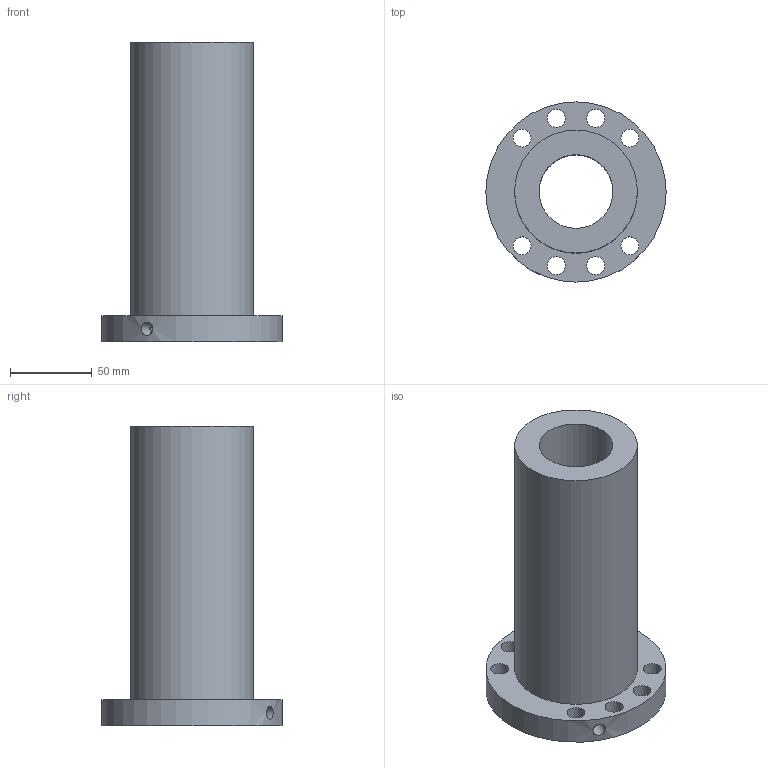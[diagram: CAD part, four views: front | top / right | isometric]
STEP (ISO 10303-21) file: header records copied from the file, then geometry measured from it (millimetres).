
FILE_DESCRIPTION(/* description */ (''),/* implementation_level */ '2;1');
FILE_NAME(/* name */ '45-12K5_635',/* time_stamp */ '2007-10-15T12:53:56+08:00',/* author */ (''),/* organization */ (''),/* preprocessor_version */ 'ST-DEVELOPER v11',/* originating_system */ 'UGS - NX 5.0',/* authorisation */ '');
FILE_SCHEMA (('CONFIG_CONTROL_DESIGN'));
Length unit declared in the file: millimetre
Products named in the file (1): 45-12K5_635
Bounding box: 110 x 110 x 183 mm (x, y, z)
Volume: 585485.4 mm3; surface area: 90096.2 mm2
Topology: 1 solids, 1 shells, 17 faces, 40 edges, 27 vertices
Faces by surface type: cylinder 13, plane 4
Full cylindrical faces by diameter (mm): 6 x1, 8 x1, 11 x8, 45 x1, 75 x1, 110 x1
Entity records: 668 total; most frequent: CARTESIAN_POINT 184, DIRECTION 84, FACE_BOUND 52, EDGE_LOOP 52, ORIENTED_EDGE 52, AXIS2_PLACEMENT_3D 42, VERTEX_POINT 26, EDGE_CURVE 26
